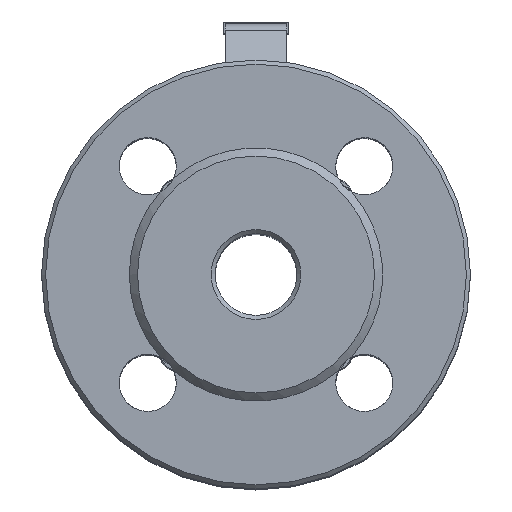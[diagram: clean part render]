
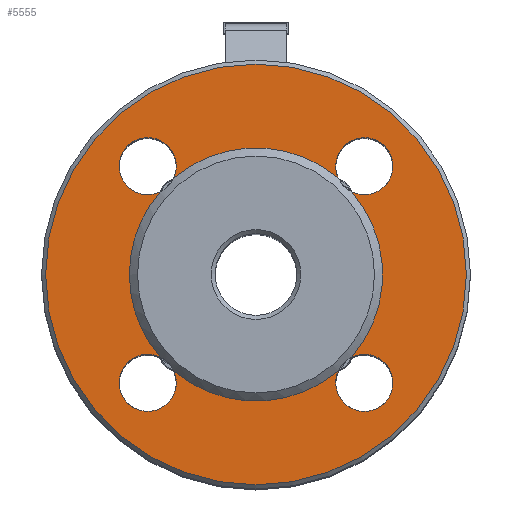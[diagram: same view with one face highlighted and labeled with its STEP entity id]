
A CAD part, top view. The second image highlights one B-rep face of the part: STEP entity #5555.
In plain terms, the highlighted planar face has unit normal (0, 0, 1).
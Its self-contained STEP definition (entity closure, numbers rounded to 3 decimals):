
#5555=ADVANCED_FACE('',(#17084,#17086),#17088,.F.);
#17084=FACE_BOUND('',#17085,.T.);
#17085=EDGE_LOOP('',(#26383));
#17086=FACE_BOUND('',#17087,.T.);
#17087=EDGE_LOOP('',(#26384,#26385,#26386,#26387,#26388,#26389,#26390,#26391,#26392,
#26393,#26394,#26395,#26396));
#17088=PLANE('',#17089);
#17089=AXIS2_PLACEMENT_3D('',#17090,#17091,#17092);
#17090=CARTESIAN_POINT('',(0.,0.,73.));
#17091=DIRECTION('',(0.,0.,-1.));
#17092=DIRECTION('',(-1.,0.,0.));
#26383=ORIENTED_EDGE('',*,*,#30717,.F.);
#26384=ORIENTED_EDGE('',*,*,#30718,.F.);
#26385=ORIENTED_EDGE('',*,*,#30656,.F.);
#26386=ORIENTED_EDGE('',*,*,#30655,.F.);
#26387=ORIENTED_EDGE('',*,*,#30719,.F.);
#26388=ORIENTED_EDGE('',*,*,#30660,.F.);
#26389=ORIENTED_EDGE('',*,*,#30659,.F.);
#26390=ORIENTED_EDGE('',*,*,#30720,.F.);
#26391=ORIENTED_EDGE('',*,*,#30663,.F.);
#26392=ORIENTED_EDGE('',*,*,#30662,.F.);
#26393=ORIENTED_EDGE('',*,*,#30721,.F.);
#26394=ORIENTED_EDGE('',*,*,#30722,.F.);
#26395=ORIENTED_EDGE('',*,*,#30653,.F.);
#26396=ORIENTED_EDGE('',*,*,#30652,.F.);
#30652=EDGE_CURVE('',#36662,#36663,#36664,.T.);
#30653=EDGE_CURVE('',#36663,#36665,#36666,.T.);
#30655=EDGE_CURVE('',#36668,#36669,#36670,.T.);
#30656=EDGE_CURVE('',#36669,#36671,#36672,.T.);
#30659=EDGE_CURVE('',#36675,#36677,#36678,.T.);
#30660=EDGE_CURVE('',#36677,#36674,#36679,.T.);
#30662=EDGE_CURVE('',#36681,#36683,#36684,.T.);
#30663=EDGE_CURVE('',#36683,#36680,#36685,.T.);
#30717=EDGE_CURVE('',#36780,#36780,#36781,.T.);
#30718=EDGE_CURVE('',#36671,#36662,#36782,.T.);
#30719=EDGE_CURVE('',#36674,#36668,#36783,.T.);
#30720=EDGE_CURVE('',#36680,#36675,#36784,.T.);
#30721=EDGE_CURVE('',#36785,#36681,#36786,.T.);
#30722=EDGE_CURVE('',#36665,#36785,#36787,.T.);
#36662=VERTEX_POINT('',#60091);
#36663=VERTEX_POINT('',#60092);
#36664=CIRCLE('',#60093,7.);
#36665=VERTEX_POINT('',#60097);
#36666=CIRCLE('',#60098,7.);
#36668=VERTEX_POINT('',#60151);
#36669=VERTEX_POINT('',#60152);
#36670=CIRCLE('',#60153,7.);
#36671=VERTEX_POINT('',#60157);
#36672=CIRCLE('',#60158,7.);
#36674=VERTEX_POINT('',#60211);
#36675=VERTEX_POINT('',#60212);
#36677=VERTEX_POINT('',#60262);
#36678=CIRCLE('',#60263,7.);
#36679=CIRCLE('',#60267,7.);
#36680=VERTEX_POINT('',#60271);
#36681=VERTEX_POINT('',#60272);
#36683=VERTEX_POINT('',#60322);
#36684=CIRCLE('',#60323,7.);
#36685=CIRCLE('',#60327,7.);
#36780=VERTEX_POINT('',#60560);
#36781=CIRCLE('',#60561,51.5);
#36782=CIRCLE('',#60565,31.);
#36783=CIRCLE('',#60569,31.);
#36784=CIRCLE('',#60573,31.);
#36785=VERTEX_POINT('',#60577);
#36786=CIRCLE('',#60578,31.);
#36787=CIRCLE('',#60582,31.);
#60091=CARTESIAN_POINT('',(-20.188,23.526,73.));
#60092=CARTESIAN_POINT('',(-33.517,26.517,73.));
#60093=AXIS2_PLACEMENT_3D('',#60094,#60095,#60096);
#60094=CARTESIAN_POINT('',(-26.517,26.517,73.));
#60095=DIRECTION('',(0.,0.,1.));
#60096=DIRECTION('',(0.904,-0.427,0.));
#60097=CARTESIAN_POINT('',(-23.526,20.188,73.));
#60098=AXIS2_PLACEMENT_3D('',#60099,#60100,#60101);
#60099=CARTESIAN_POINT('',(-26.517,26.517,73.));
#60100=DIRECTION('',(0.,0.,1.));
#60101=DIRECTION('',(-1.,0.,0.));
#60151=CARTESIAN_POINT('',(23.526,20.188,73.));
#60152=CARTESIAN_POINT('',(19.517,26.517,73.));
#60153=AXIS2_PLACEMENT_3D('',#60154,#60155,#60156);
#60154=CARTESIAN_POINT('',(26.517,26.517,73.));
#60155=DIRECTION('',(0.,0.,1.));
#60156=DIRECTION('',(-0.427,-0.904,0.));
#60157=CARTESIAN_POINT('',(20.188,23.526,73.));
#60158=AXIS2_PLACEMENT_3D('',#60159,#60160,#60161);
#60159=CARTESIAN_POINT('',(26.517,26.517,73.));
#60160=DIRECTION('',(0.,0.,1.));
#60161=DIRECTION('',(-1.,0.,0.));
#60211=CARTESIAN_POINT('',(23.526,-20.188,73.));
#60212=CARTESIAN_POINT('',(20.188,-23.526,73.));
#60262=CARTESIAN_POINT('',(19.517,-26.517,73.));
#60263=AXIS2_PLACEMENT_3D('',#60264,#60265,#60266);
#60264=CARTESIAN_POINT('',(26.517,-26.517,73.));
#60265=DIRECTION('',(0.,0.,1.));
#60266=DIRECTION('',(-0.904,0.427,0.));
#60267=AXIS2_PLACEMENT_3D('',#60268,#60269,#60270);
#60268=CARTESIAN_POINT('',(26.517,-26.517,73.));
#60269=DIRECTION('',(0.,0.,1.));
#60270=DIRECTION('',(-1.,0.,0.));
#60271=CARTESIAN_POINT('',(-20.188,-23.526,73.));
#60272=CARTESIAN_POINT('',(-23.526,-20.188,73.));
#60322=CARTESIAN_POINT('',(-33.517,-26.517,73.));
#60323=AXIS2_PLACEMENT_3D('',#60324,#60325,#60326);
#60324=CARTESIAN_POINT('',(-26.517,-26.517,73.));
#60325=DIRECTION('',(0.,0.,1.));
#60326=DIRECTION('',(0.427,0.904,0.));
#60327=AXIS2_PLACEMENT_3D('',#60328,#60329,#60330);
#60328=CARTESIAN_POINT('',(-26.517,-26.517,73.));
#60329=DIRECTION('',(0.,0.,1.));
#60330=DIRECTION('',(-1.,0.,0.));
#60560=CARTESIAN_POINT('',(-51.5,0.,73.));
#60561=AXIS2_PLACEMENT_3D('',#60562,#60563,#60564);
#60562=CARTESIAN_POINT('',(0.,0.,73.));
#60563=DIRECTION('',(0.,0.,-1.));
#60564=DIRECTION('',(-1.,0.,0.));
#60565=AXIS2_PLACEMENT_3D('',#60566,#60567,#60568);
#60566=CARTESIAN_POINT('',(0.,0.,73.));
#60567=DIRECTION('',(0.,0.,1.));
#60568=DIRECTION('',(0.651,0.759,0.));
#60569=AXIS2_PLACEMENT_3D('',#60570,#60571,#60572);
#60570=CARTESIAN_POINT('',(0.,0.,73.));
#60571=DIRECTION('',(0.,0.,1.));
#60572=DIRECTION('',(0.759,-0.651,0.));
#60573=AXIS2_PLACEMENT_3D('',#60574,#60575,#60576);
#60574=CARTESIAN_POINT('',(0.,0.,73.));
#60575=DIRECTION('',(0.,0.,1.));
#60576=DIRECTION('',(-0.651,-0.759,0.));
#60577=CARTESIAN_POINT('',(-31.,0.,73.));
#60578=AXIS2_PLACEMENT_3D('',#60579,#60580,#60581);
#60579=CARTESIAN_POINT('',(0.,0.,73.));
#60580=DIRECTION('',(0.,0.,1.));
#60581=DIRECTION('',(-1.,0.,0.));
#60582=AXIS2_PLACEMENT_3D('',#60583,#60584,#60585);
#60583=CARTESIAN_POINT('',(0.,0.,73.));
#60584=DIRECTION('',(0.,0.,1.));
#60585=DIRECTION('',(-0.759,0.651,0.));
